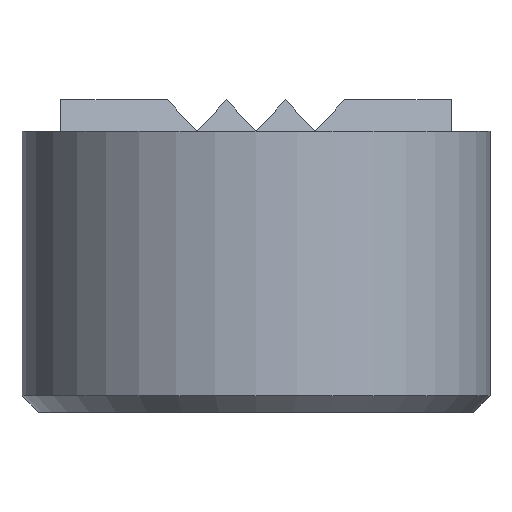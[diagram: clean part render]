
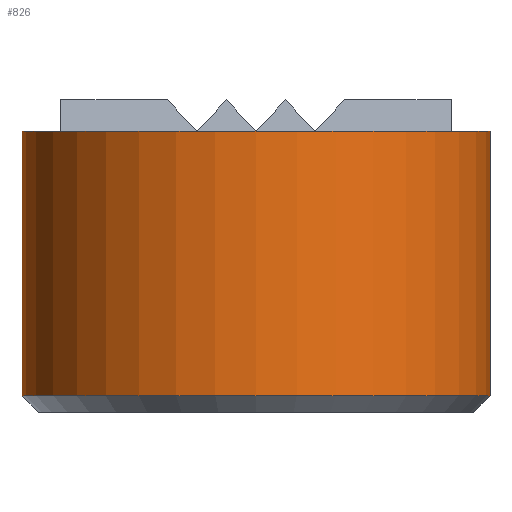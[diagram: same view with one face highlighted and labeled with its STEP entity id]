
A CAD part, front view. The second image highlights one B-rep face of the part: STEP entity #826.
In plain terms, the highlighted cylindrical face has radius 7.138 mm (diameter 14.275 mm), a partial arc.
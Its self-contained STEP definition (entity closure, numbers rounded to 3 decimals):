
#664=CARTESIAN_POINT('',(-7.138,-1.118,-3.297));
#665=VERTEX_POINT('',#664);
#683=CARTESIAN_POINT('',(7.138,-1.118,-3.297));
#684=VERTEX_POINT('',#683);
#691=CARTESIAN_POINT('',(0.0,-1.118,-3.297));
#692=DIRECTION('',(0.0,0.0,-1.0));
#693=DIRECTION('',(1.0,0.0,0.0));
#694=AXIS2_PLACEMENT_3D('',#691,#692,#693);
#695=CIRCLE('',#694,7.138);
#696=EDGE_CURVE('',#684,#665,#695,.T.);
#784=CARTESIAN_POINT('',(-7.138,-1.118,4.765));
#785=VERTEX_POINT('',#784);
#786=CARTESIAN_POINT('',(-7.138,-1.118,-3.297));
#787=DIRECTION('',(0.0,0.0,1.0));
#788=VECTOR('',#787,8.062);
#789=LINE('',#786,#788);
#790=EDGE_CURVE('',#665,#785,#789,.T.);
#802=CARTESIAN_POINT('',(0.0,-1.118,-4.765));
#803=DIRECTION('',(0.0,0.0,1.0));
#804=DIRECTION('',(1.0,0.0,0.0));
#805=AXIS2_PLACEMENT_3D('',#802,#803,#804);
#806=CYLINDRICAL_SURFACE('',#805,7.138);
#807=ORIENTED_EDGE('',*,*,#696,.F.);
#808=CARTESIAN_POINT('',(7.138,-1.118,4.765));
#809=VERTEX_POINT('',#808);
#810=CARTESIAN_POINT('',(7.138,-1.118,-3.297));
#811=DIRECTION('',(0.0,0.0,1.0));
#812=VECTOR('',#811,8.062);
#813=LINE('',#810,#812);
#814=EDGE_CURVE('',#684,#809,#813,.T.);
#815=ORIENTED_EDGE('',*,*,#814,.T.);
#816=CARTESIAN_POINT('',(0.0,-1.118,4.765));
#817=DIRECTION('',(0.0,0.0,-1.0));
#818=DIRECTION('',(1.0,0.0,0.0));
#819=AXIS2_PLACEMENT_3D('',#816,#817,#818);
#820=CIRCLE('',#819,7.138);
#821=EDGE_CURVE('',#809,#785,#820,.T.);
#822=ORIENTED_EDGE('',*,*,#821,.T.);
#823=ORIENTED_EDGE('',*,*,#790,.F.);
#824=EDGE_LOOP('',(#807,#815,#822,#823));
#825=FACE_OUTER_BOUND('',#824,.T.);
#826=ADVANCED_FACE('',(#825),#806,.T.);
